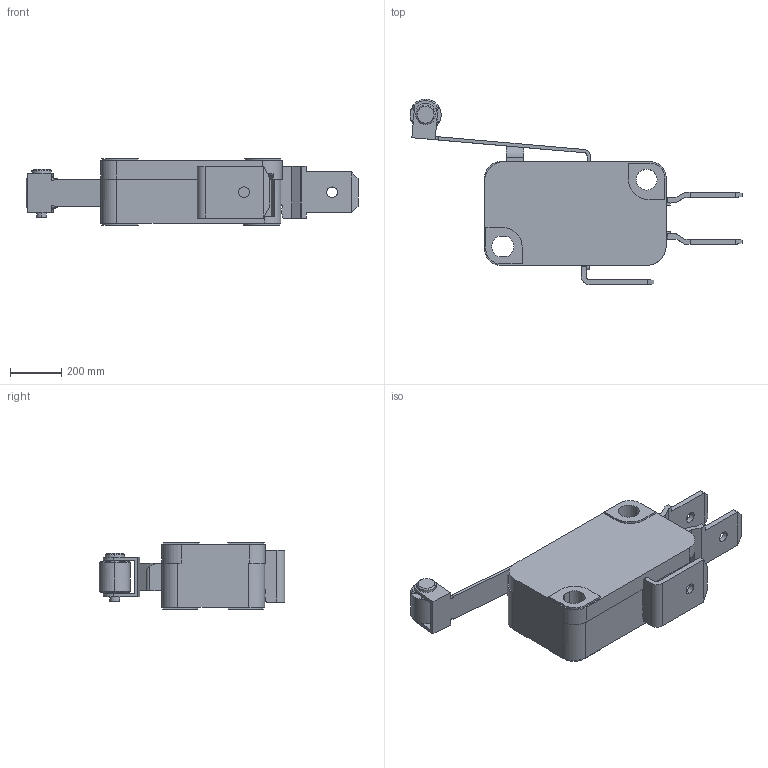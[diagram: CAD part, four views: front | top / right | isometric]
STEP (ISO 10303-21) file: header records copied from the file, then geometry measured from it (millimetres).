
FILE_DESCRIPTION((''),'2;1');
FILE_NAME('ASM0003_ASM','2016-06-03T',('Administrator'),(''),'PRO/ENGINEER BY PARAMETRIC TECHNOLOGY CORPORATION, 2012360','PRO/ENGINEER BY PARAMETRIC TECHNOLOGY CORPORATION, 2012360','');
FILE_SCHEMA(('CONFIG_CONTROL_DESIGN'));
Length unit declared in the file: inch
Products named in the file (1): ASM0003_ASM
Bounding box: 1300.56 x 726.63 x 259.08 mm (x, y, z)
Volume: 67339639.1 mm3; surface area: 2702232.3 mm2
Topology: 1 solids, 6 shells, 499 faces, 1420 edges, 926 vertices
Faces by surface type: plane 368, cylinder 111, cone 16, torus 4
Entity records: 16345 total; most frequent: CARTESIAN_POINT 3084, ORIENTED_EDGE 2840, DIRECTION 2657, EDGE_CURVE 1420, VECTOR 1091, LINE 1091, VERTEX_POINT 926, AXIS2_PLACEMENT_3D 783
